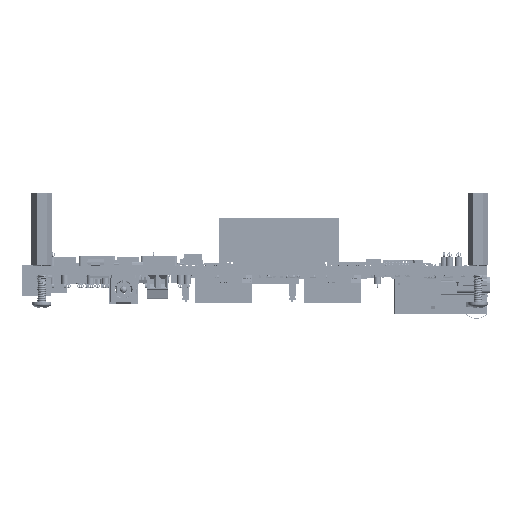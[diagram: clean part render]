
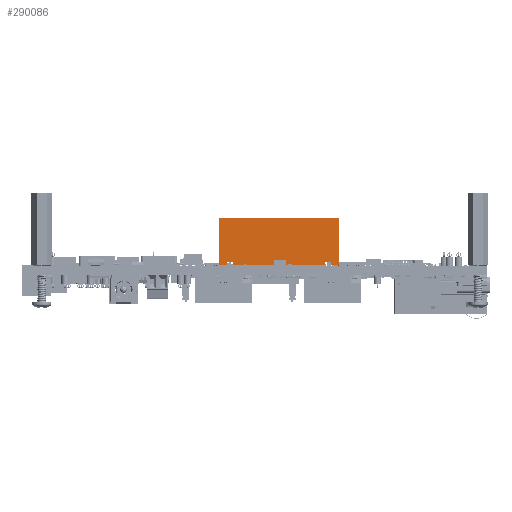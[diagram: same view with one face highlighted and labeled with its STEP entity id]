
A CAD part, front view. The second image highlights one B-rep face of the part: STEP entity #290086.
In plain terms, the highlighted planar face has unit normal (0, -1, 0).
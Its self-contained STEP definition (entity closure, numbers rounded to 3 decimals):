
#289106 = VERTEX_POINT('',#289107);
#289107 = CARTESIAN_POINT('',(18.25,-3.8,0.2));
#289132 = VERTEX_POINT('',#289133);
#289133 = CARTESIAN_POINT('',(21.1,-3.8,0.2));
#289139 = EDGE_CURVE('',#289106,#289132,#289140,.T.);
#289140 = LINE('',#289141,#289142);
#289141 = CARTESIAN_POINT('',(-21.1,-3.8,0.2));
#289142 = VECTOR('',#289143,1.);
#289143 = DIRECTION('',(1.,0.,0.));
#289168 = VERTEX_POINT('',#289169);
#289169 = CARTESIAN_POINT('',(-18.25,-3.8,0.2));
#289175 = EDGE_CURVE('',#289176,#289168,#289178,.T.);
#289176 = VERTEX_POINT('',#289177);
#289177 = CARTESIAN_POINT('',(-21.1,-3.8,0.2));
#289178 = LINE('',#289179,#289180);
#289179 = CARTESIAN_POINT('',(-21.1,-3.8,0.2));
#289180 = VECTOR('',#289181,1.);
#289181 = DIRECTION('',(1.,0.,0.));
#289393 = EDGE_CURVE('',#289394,#289396,#289398,.T.);
#289394 = VERTEX_POINT('',#289395);
#289395 = CARTESIAN_POINT('',(16.25,-3.8,1.2));
#289396 = VERTEX_POINT('',#289397);
#289397 = CARTESIAN_POINT('',(18.25,-3.8,1.2));
#289398 = LINE('',#289399,#289400);
#289399 = CARTESIAN_POINT('',(8.625,-3.8,1.2));
#289400 = VECTOR('',#289401,1.);
#289401 = DIRECTION('',(1.,0.,0.));
#289445 = EDGE_CURVE('',#289446,#289448,#289450,.T.);
#289446 = VERTEX_POINT('',#289447);
#289447 = CARTESIAN_POINT('',(-18.25,-3.8,1.2));
#289448 = VERTEX_POINT('',#289449);
#289449 = CARTESIAN_POINT('',(-16.25,-3.8,1.2));
#289450 = LINE('',#289451,#289452);
#289451 = CARTESIAN_POINT('',(-8.625,-3.8,1.2));
#289452 = VECTOR('',#289453,1.);
#289453 = DIRECTION('',(1.,0.,0.));
#289497 = EDGE_CURVE('',#289448,#289498,#289500,.T.);
#289498 = VERTEX_POINT('',#289499);
#289499 = CARTESIAN_POINT('',(-16.25,-3.8,0.2));
#289500 = LINE('',#289501,#289502);
#289501 = CARTESIAN_POINT('',(-16.25,-3.8,0.2));
#289502 = VECTOR('',#289503,1.);
#289503 = DIRECTION('',(0.,0.,-1.));
#289528 = EDGE_CURVE('',#289168,#289446,#289529,.T.);
#289529 = LINE('',#289530,#289531);
#289530 = CARTESIAN_POINT('',(-18.25,-3.8,0.2));
#289531 = VECTOR('',#289532,1.);
#289532 = DIRECTION('',(0.,0.,1.));
#289550 = EDGE_CURVE('',#289396,#289106,#289551,.T.);
#289551 = LINE('',#289552,#289553);
#289552 = CARTESIAN_POINT('',(18.25,-3.8,0.2));
#289553 = VECTOR('',#289554,1.);
#289554 = DIRECTION('',(0.,0.,-1.));
#289572 = EDGE_CURVE('',#289573,#289394,#289575,.T.);
#289573 = VERTEX_POINT('',#289574);
#289574 = CARTESIAN_POINT('',(16.25,-3.8,0.2));
#289575 = LINE('',#289576,#289577);
#289576 = CARTESIAN_POINT('',(16.25,-3.8,0.2));
#289577 = VECTOR('',#289578,1.);
#289578 = DIRECTION('',(0.,0.,1.));
#289650 = EDGE_CURVE('',#289498,#289573,#289651,.T.);
#289651 = LINE('',#289652,#289653);
#289652 = CARTESIAN_POINT('',(-21.1,-3.8,0.2));
#289653 = VECTOR('',#289654,1.);
#289654 = DIRECTION('',(1.,0.,0.));
#290067 = VERTEX_POINT('',#290068);
#290068 = CARTESIAN_POINT('',(21.1,-3.8,16.8));
#290074 = EDGE_CURVE('',#289132,#290067,#290075,.T.);
#290075 = LINE('',#290076,#290077);
#290076 = CARTESIAN_POINT('',(21.1,-3.8,0.2));
#290077 = VECTOR('',#290078,1.);
#290078 = DIRECTION('',(0.,0.,1.));
#290086 = ADVANCED_FACE('',(#290087),#290113,.T.);
#290087 = FACE_BOUND('',#290088,.T.);
#290088 = EDGE_LOOP('',(#290089,#290090,#290091,#290092,#290093,#290094,
    #290095,#290096,#290104,#290110,#290111,#290112));
#290089 = ORIENTED_EDGE('',*,*,#289497,.T.);
#290090 = ORIENTED_EDGE('',*,*,#289650,.T.);
#290091 = ORIENTED_EDGE('',*,*,#289572,.T.);
#290092 = ORIENTED_EDGE('',*,*,#289393,.T.);
#290093 = ORIENTED_EDGE('',*,*,#289550,.T.);
#290094 = ORIENTED_EDGE('',*,*,#289139,.T.);
#290095 = ORIENTED_EDGE('',*,*,#290074,.T.);
#290096 = ORIENTED_EDGE('',*,*,#290097,.T.);
#290097 = EDGE_CURVE('',#290067,#290098,#290100,.T.);
#290098 = VERTEX_POINT('',#290099);
#290099 = CARTESIAN_POINT('',(-21.1,-3.8,16.8));
#290100 = LINE('',#290101,#290102);
#290101 = CARTESIAN_POINT('',(0.,-3.8,16.8));
#290102 = VECTOR('',#290103,1.);
#290103 = DIRECTION('',(-1.,0.,0.));
#290104 = ORIENTED_EDGE('',*,*,#290105,.F.);
#290105 = EDGE_CURVE('',#289176,#290098,#290106,.T.);
#290106 = LINE('',#290107,#290108);
#290107 = CARTESIAN_POINT('',(-21.1,-3.8,0.2));
#290108 = VECTOR('',#290109,1.);
#290109 = DIRECTION('',(0.,0.,1.));
#290110 = ORIENTED_EDGE('',*,*,#289175,.T.);
#290111 = ORIENTED_EDGE('',*,*,#289528,.T.);
#290112 = ORIENTED_EDGE('',*,*,#289445,.T.);
#290113 = PLANE('',#290114);
#290114 = AXIS2_PLACEMENT_3D('',#290115,#290116,#290117);
#290115 = CARTESIAN_POINT('',(0.,-3.8,0.2));
#290116 = DIRECTION('',(0.,-1.,0.));
#290117 = DIRECTION('',(0.,0.,-1.));
